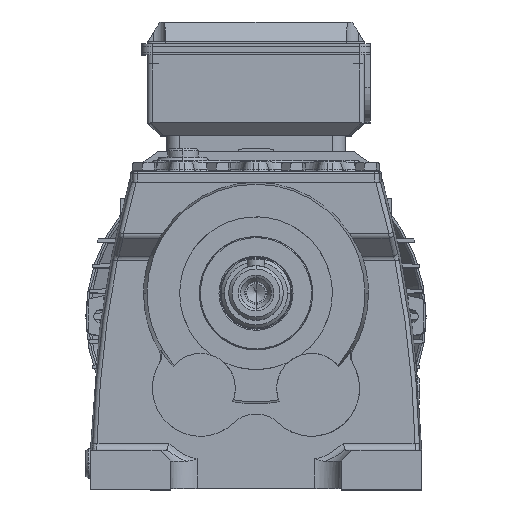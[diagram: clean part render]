
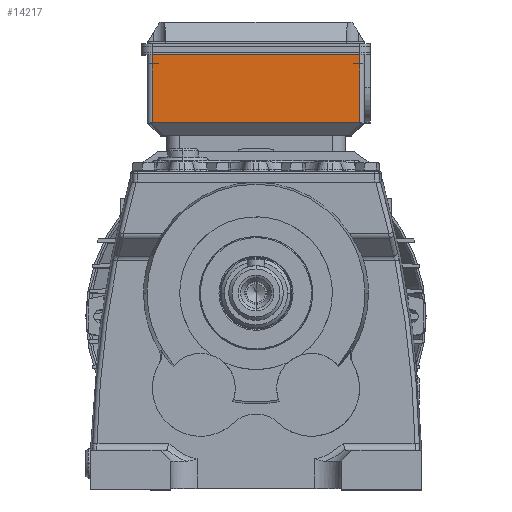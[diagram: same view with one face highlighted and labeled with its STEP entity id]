
A CAD part, top view. The second image highlights one B-rep face of the part: STEP entity #14217.
In plain terms, the highlighted planar face has unit normal (0, 0, 1) as drawn and (-1, 0, 0) by its records, which use the part's own axes.
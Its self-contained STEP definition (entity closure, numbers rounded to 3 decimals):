
#12022 = ORIENTED_EDGE ( 'NONE', *, *, #39971, .F. ) ;
#12119 = ORIENTED_EDGE ( 'NONE', *, *, #40082, .F. ) ;
#12122 = ORIENTED_EDGE ( 'NONE', *, *, #40068, .F. ) ;
#12168 = ORIENTED_EDGE ( 'NONE', *, *, #40039, .F. ) ;
#14217 = ADVANCED_FACE ( 'NONE', ( #33222 ), #36169, .F. ) ;
#22754 = VERTEX_POINT ( 'NONE', #47526 ) ;
#22809 = VERTEX_POINT ( 'NONE', #47652 ) ;
#22910 = VERTEX_POINT ( 'NONE', #47658 ) ;
#22949 = VERTEX_POINT ( 'NONE', #47799 ) ;
#33222 = FACE_OUTER_BOUND ( 'NONE', #65981, .T. ) ;
#36169 = PLANE ( 'NONE',  #73827 ) ;
#36214 = CARTESIAN_POINT ( 'NONE',  ( -49.75, -43., 49.75 ) ) ;
#36225 = DIRECTION ( 'NONE',  ( 1., 0., 0. ) ) ;
#36228 = DIRECTION ( 'NONE',  ( 0., 0., -1. ) ) ;
#39971 = EDGE_CURVE ( 'NONE', #22949, #22910, #98378, .T. ) ;
#40039 = EDGE_CURVE ( 'NONE', #22754, #22809, #98501, .T. ) ;
#40068 = EDGE_CURVE ( 'NONE', #22809, #22949, #98555, .T. ) ;
#40082 = EDGE_CURVE ( 'NONE', #22910, #22754, #98534, .T. ) ;
#47526 = CARTESIAN_POINT ( 'NONE',  ( -49.75, -5., -47.55 ) ) ;
#47652 = CARTESIAN_POINT ( 'NONE',  ( -49.75, -5., 47.55 ) ) ;
#47658 = CARTESIAN_POINT ( 'NONE',  ( -49.75, -37., -47.55 ) ) ;
#47799 = CARTESIAN_POINT ( 'NONE',  ( -49.75, -37., 47.55 ) ) ;
#65981 = EDGE_LOOP ( 'NONE', ( #12119, #12022, #12122, #12168 ) ) ;
#73827 = AXIS2_PLACEMENT_3D ( 'NONE', #36214, #36225, #36228 ) ;
#98326 = VECTOR ( 'NONE', #103572, 1000. ) ;
#98378 = LINE ( 'NONE', #103567, #98326 ) ;
#98478 = VECTOR ( 'NONE', #103800, 1000. ) ;
#98501 = LINE ( 'NONE', #103799, #98478 ) ;
#98534 = LINE ( 'NONE', #103873, #98558 ) ;
#98548 = VECTOR ( 'NONE', #103859, 1000. ) ;
#98555 = LINE ( 'NONE', #103858, #98548 ) ;
#98558 = VECTOR ( 'NONE', #103870, 1000. ) ;
#103567 = CARTESIAN_POINT ( 'NONE',  ( -49.75, -37., 49.75 ) ) ;
#103572 = DIRECTION ( 'NONE',  ( 0., 0., -1. ) ) ;
#103799 = CARTESIAN_POINT ( 'NONE',  ( -49.75, -5., -47.5 ) ) ;
#103800 = DIRECTION ( 'NONE',  ( 0., 0., 1. ) ) ;
#103858 = CARTESIAN_POINT ( 'NONE',  ( -49.75, -43., 47.55 ) ) ;
#103859 = DIRECTION ( 'NONE',  ( 0., -1., 0. ) ) ;
#103870 = DIRECTION ( 'NONE',  ( 0., 1., 0. ) ) ;
#103873 = CARTESIAN_POINT ( 'NONE',  ( -49.75, -43., -47.55 ) ) ;
